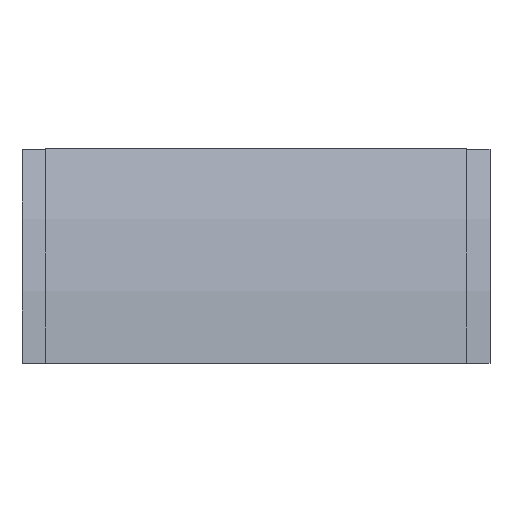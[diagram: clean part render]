
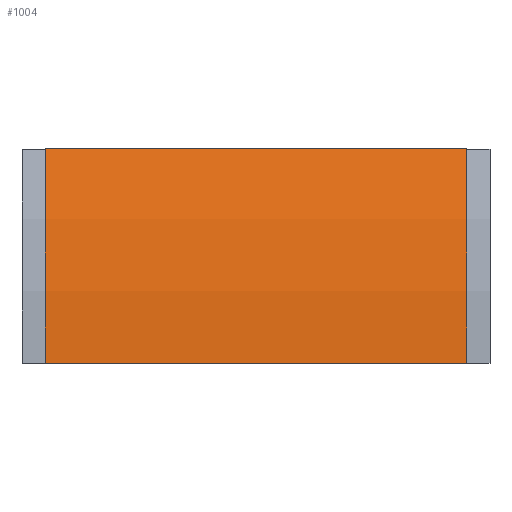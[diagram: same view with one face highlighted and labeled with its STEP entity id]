
A CAD part, front view. The second image highlights one B-rep face of the part: STEP entity #1004.
In plain terms, the highlighted cylindrical face has radius 568 mm (diameter 1136 mm), a partial arc.
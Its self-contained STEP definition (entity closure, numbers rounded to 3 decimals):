
#1 = EDGE_CURVE ( 'NONE', #817, #204, #419, .T. ) ;
#2 = EDGE_CURVE ( 'NONE', #188, #204, #421, .T. ) ;
#10 = EDGE_CURVE ( 'NONE', #815, #817, #428, .T. ) ;
#137 = CIRCLE ( 'NONE', #936, 568. ) ;
#152 = FACE_OUTER_BOUND ( 'NONE', #235, .T. ) ;
#157 = CYLINDRICAL_SURFACE ( 'NONE', #927, 568. ) ;
#188 = VERTEX_POINT ( 'NONE', #506 ) ;
#204 = VERTEX_POINT ( 'NONE', #766 ) ;
#235 = EDGE_LOOP ( 'NONE', ( #304, #306, #297, #295 ) ) ;
#295 = ORIENTED_EDGE ( 'NONE', *, *, #2, .T. ) ;
#297 = ORIENTED_EDGE ( 'NONE', *, *, #994, .T. ) ;
#304 = ORIENTED_EDGE ( 'NONE', *, *, #1, .F. ) ;
#306 = ORIENTED_EDGE ( 'NONE', *, *, #10, .F. ) ;
#419 = CIRCLE ( 'NONE', #971, 568. ) ;
#421 = LINE ( 'NONE', #620, #422 ) ;
#422 = VECTOR ( 'NONE', #607, 1000. ) ;
#428 = LINE ( 'NONE', #545, #435 ) ;
#435 = VECTOR ( 'NONE', #582, 1000. ) ;
#506 = CARTESIAN_POINT ( 'NONE',  ( -190.5, -68., 0. ) ) ;
#545 = CARTESIAN_POINT ( 'NONE',  ( -190.5, -33.745, 194.267 ) ) ;
#582 = DIRECTION ( 'NONE',  ( 1., 0., 0. ) ) ;
#606 = DIRECTION ( 'NONE',  ( 0., 0., -1. ) ) ;
#607 = DIRECTION ( 'NONE',  ( 1., 0., 0. ) ) ;
#610 = DIRECTION ( 'NONE',  ( 1., 0., 0. ) ) ;
#614 = CARTESIAN_POINT ( 'NONE',  ( 190.5, 500., 0. ) ) ;
#620 = CARTESIAN_POINT ( 'NONE',  ( -190.5, -68., 0. ) ) ;
#666 = DIRECTION ( 'NONE',  ( 0., 0., -1. ) ) ;
#669 = DIRECTION ( 'NONE',  ( 1., 0., 0. ) ) ;
#715 = CARTESIAN_POINT ( 'NONE',  ( 0., 500., 0. ) ) ;
#739 = CARTESIAN_POINT ( 'NONE',  ( 190.5, -33.745, 194.267 ) ) ;
#742 = CARTESIAN_POINT ( 'NONE',  ( -190.5, -33.745, 194.267 ) ) ;
#766 = CARTESIAN_POINT ( 'NONE',  ( 190.5, -68., 0. ) ) ;
#779 = DIRECTION ( 'NONE',  ( 0., 0., -1. ) ) ;
#780 = DIRECTION ( 'NONE',  ( 1., 0., 0. ) ) ;
#781 = CARTESIAN_POINT ( 'NONE',  ( -190.5, 500., 0. ) ) ;
#815 = VERTEX_POINT ( 'NONE', #742 ) ;
#817 = VERTEX_POINT ( 'NONE', #739 ) ;
#927 = AXIS2_PLACEMENT_3D ( 'NONE', #715, #669, #666 ) ;
#936 = AXIS2_PLACEMENT_3D ( 'NONE', #781, #780, #779 ) ;
#971 = AXIS2_PLACEMENT_3D ( 'NONE', #614, #610, #606 ) ;
#994 = EDGE_CURVE ( 'NONE', #815, #188, #137, .T. ) ;
#1004 = ADVANCED_FACE ( 'NONE', ( #152 ), #157, .T. ) ;
